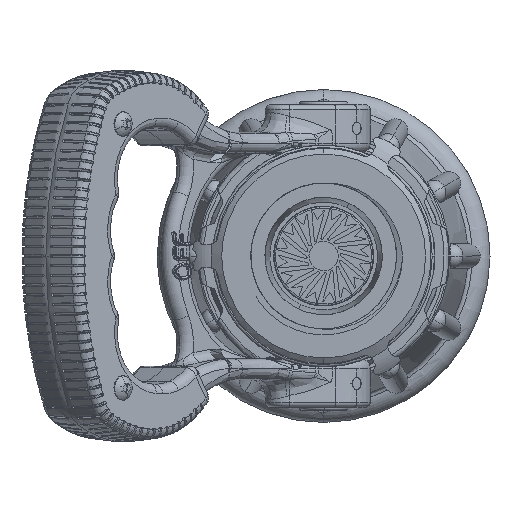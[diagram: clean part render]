
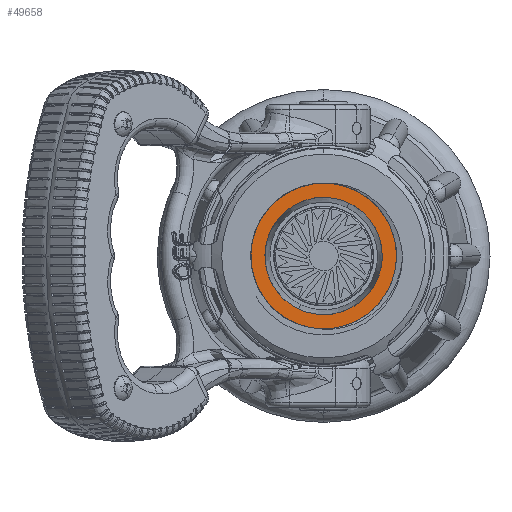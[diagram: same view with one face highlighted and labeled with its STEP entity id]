
A CAD part, left-side view. The second image highlights one B-rep face of the part: STEP entity #49658.
In plain terms, the highlighted planar face has unit normal (-1, 0, 0).
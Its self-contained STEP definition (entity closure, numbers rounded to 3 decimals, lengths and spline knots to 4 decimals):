
#12783 = VERTEX_POINT ( 'NONE', #86295 ) ;
#15772 = VERTEX_POINT ( 'NONE', #88324 ) ;
#15778 = VERTEX_POINT ( 'NONE', #88329 ) ;
#15786 = VERTEX_POINT ( 'NONE', #88338 ) ;
#18490 = AXIS2_PLACEMENT_3D ( 'NONE', #109962, #109973, #109975 ) ;
#49658 = ADVANCED_FACE ( 'NONE', ( #128651, #128684 ), #109969, .F. ) ;
#83577 = EDGE_CURVE ( 'NONE', #15786, #15772, #115960, .T. ) ;
#83583 = EDGE_CURVE ( 'NONE', #15772, #15786, #115971, .T. ) ;
#83588 = EDGE_CURVE ( 'NONE', #12783, #15778, #115981, .T. ) ;
#83590 = EDGE_CURVE ( 'NONE', #15778, #12783, #115975, .T. ) ;
#86295 = CARTESIAN_POINT ( 'NONE',  ( -0.47, 0.9998, 0.0207 ) ) ;
#88324 = CARTESIAN_POINT ( 'NONE',  ( -0.47, 0.7498, 0.0156 ) ) ;
#88329 = CARTESIAN_POINT ( 'NONE',  ( -0.47, -0.9998, -0.0207 ) ) ;
#88338 = CARTESIAN_POINT ( 'NONE',  ( -0.47, -0.7498, -0.0156 ) ) ;
#96117 = ORIENTED_EDGE ( 'NONE', *, *, #83588, .F. ) ;
#96118 = ORIENTED_EDGE ( 'NONE', *, *, #83590, .F. ) ;
#96119 = ORIENTED_EDGE ( 'NONE', *, *, #83583, .T. ) ;
#96120 = ORIENTED_EDGE ( 'NONE', *, *, #83577, .T. ) ;
#108823 = AXIS2_PLACEMENT_3D ( 'NONE', #123917, #123919, #123921 ) ;
#108825 = AXIS2_PLACEMENT_3D ( 'NONE', #123933, #123935, #123937 ) ;
#108827 = AXIS2_PLACEMENT_3D ( 'NONE', #123948, #123949, #123951 ) ;
#108828 = AXIS2_PLACEMENT_3D ( 'NONE', #123955, #123957, #123959 ) ;
#109962 = CARTESIAN_POINT ( 'NONE',  ( -0.47, -0.0156, 0.7498 ) ) ;
#109969 = PLANE ( 'NONE',  #18490 ) ;
#109973 = DIRECTION ( 'NONE',  ( 1., 0., 0. ) ) ;
#109975 = DIRECTION ( 'NONE',  ( 0., 1., 0.021 ) ) ;
#115960 = CIRCLE ( 'NONE', #108823, 0.75 ) ;
#115971 = CIRCLE ( 'NONE', #108825, 0.75 ) ;
#115975 = CIRCLE ( 'NONE', #108828, 1. ) ;
#115981 = CIRCLE ( 'NONE', #108827, 1. ) ;
#123917 = CARTESIAN_POINT ( 'NONE',  ( -0.47, 0., 0. ) ) ;
#123919 = DIRECTION ( 'NONE',  ( 1., 0., 0. ) ) ;
#123921 = DIRECTION ( 'NONE',  ( 0., 1., 0.021 ) ) ;
#123933 = CARTESIAN_POINT ( 'NONE',  ( -0.47, 0., 0. ) ) ;
#123935 = DIRECTION ( 'NONE',  ( 1., 0., 0. ) ) ;
#123937 = DIRECTION ( 'NONE',  ( 0., 1., 0.021 ) ) ;
#123948 = CARTESIAN_POINT ( 'NONE',  ( -0.47, 0., 0. ) ) ;
#123949 = DIRECTION ( 'NONE',  ( 1., 0., 0. ) ) ;
#123951 = DIRECTION ( 'NONE',  ( 0., 1., 0.021 ) ) ;
#123955 = CARTESIAN_POINT ( 'NONE',  ( -0.47, 0., 0. ) ) ;
#123957 = DIRECTION ( 'NONE',  ( 1., 0., 0. ) ) ;
#123959 = DIRECTION ( 'NONE',  ( 0., 1., 0.021 ) ) ;
#128651 = FACE_OUTER_BOUND ( 'NONE', #145891, .T. ) ;
#128684 = FACE_BOUND ( 'NONE', #145924, .T. ) ;
#145891 = EDGE_LOOP ( 'NONE', ( #96117, #96118 ) ) ;
#145924 = EDGE_LOOP ( 'NONE', ( #96119, #96120 ) ) ;
